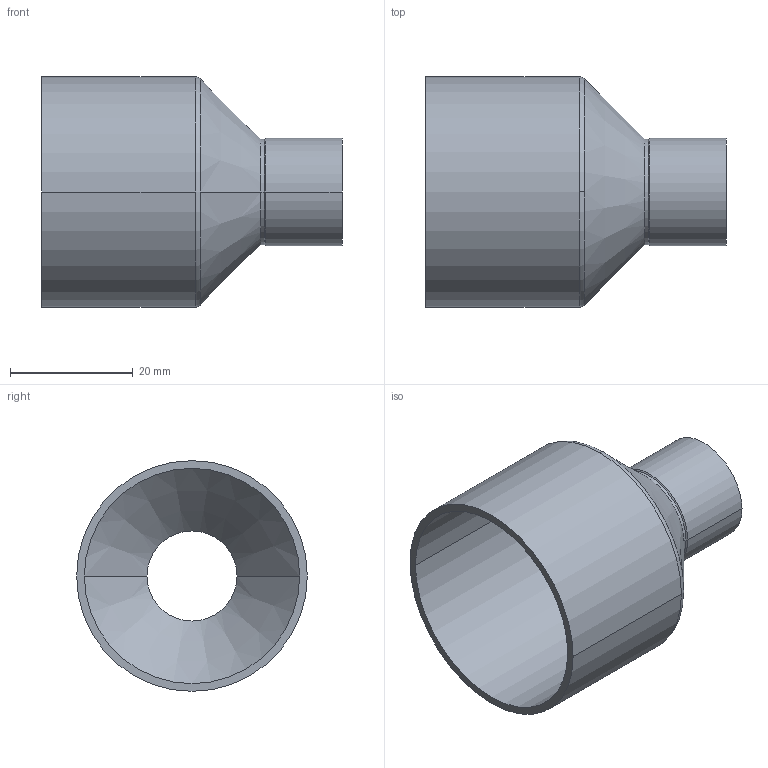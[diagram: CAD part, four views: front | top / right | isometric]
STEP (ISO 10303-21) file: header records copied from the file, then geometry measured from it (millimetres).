
FILE_DESCRIPTION((''),'2;1');
FILE_NAME('G:\Technics\CAD\Bauteile\Serie 15240\152403515.stp','2005-10-21T12:51:11',('boden'),(''),'Autodesk Inventor 8','Autodesk Inventor 8','');
FILE_SCHEMA(('AUTOMOTIVE_DESIGN { 1 0 10303 214 1 1 1 1 }'));
Length unit declared in the file: millimetre
Products named in the file (1): 152403515
Bounding box: 49 x 37.65 x 37.65 mm (x, y, z)
Volume: 5964.6 mm3; surface area: 9750.4 mm2
Topology: 1 solids, 1 shells, 24 faces, 52 edges, 30 vertices
Faces by surface type: cylinder 12, cone 8, torus 2, plane 2
Entity records: 683 total; most frequent: DIRECTION 134, CARTESIAN_POINT 107, ORIENTED_EDGE 104, AXIS2_PLACEMENT_3D 57, EDGE_CURVE 52, CIRCLE 32, VERTEX_POINT 30, EDGE_LOOP 26
